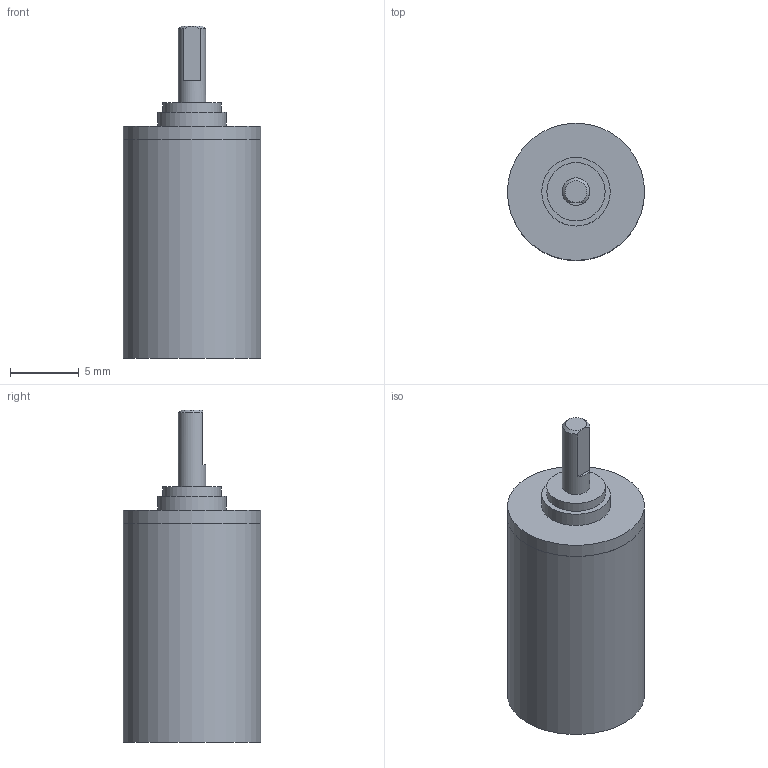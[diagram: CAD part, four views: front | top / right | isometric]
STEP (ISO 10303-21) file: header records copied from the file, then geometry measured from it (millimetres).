
FILE_DESCRIPTION(/* description */ (''),/* implementation_level */ '2;1');
FILE_NAME(/* name */ '10-1K_3.stp',/* time_stamp */ '2016-08-24T08:30:30+02:00',/* author */ ('DR. FRITZ FAULHABER GmbH & Co. KG'),/* organization */ ('DR. FRITZ FAULHABER GmbH & Co. KG'),/* preprocessor_version */ 'ST-DEVELOPER v16',/* originating_system */ 'SIEMENS PLM Software NX 10.0',/* authorisation */ '');
FILE_SCHEMA (('AUTOMOTIVE_DESIGN { 1 0 10303 214 3 1 1 1 }'));
Length unit declared in the file: millimetre
Products named in the file (1): H00000415_A
Bounding box: 10 x 10 x 24.2 mm (x, y, z)
Volume: 1286.1 mm3; surface area: 818.1 mm2
Topology: 1 solids, 1 shells, 24 faces, 42 edges, 28 vertices
Faces by surface type: plane 12, cylinder 10, cone 2
Full cylindrical faces by diameter (mm): 2 x1, 3.12 x1, 3.32 x1, 4.25 x1, 4.959 x1, 5 x1, 6 x1, 9.99 x1, 10 x2
Entity records: 532 total; most frequent: DIRECTION 97, CARTESIAN_POINT 91, ORIENTED_EDGE 54, AXIS2_PLACEMENT_3D 47, EDGE_LOOP 43, FACE_BOUND 38, EDGE_CURVE 27, ADVANCED_FACE 24
